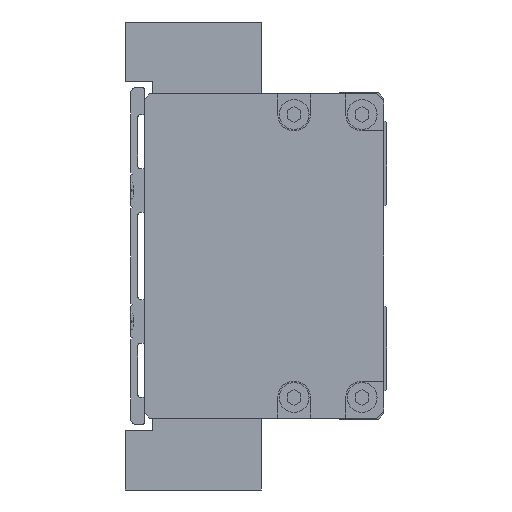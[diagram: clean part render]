
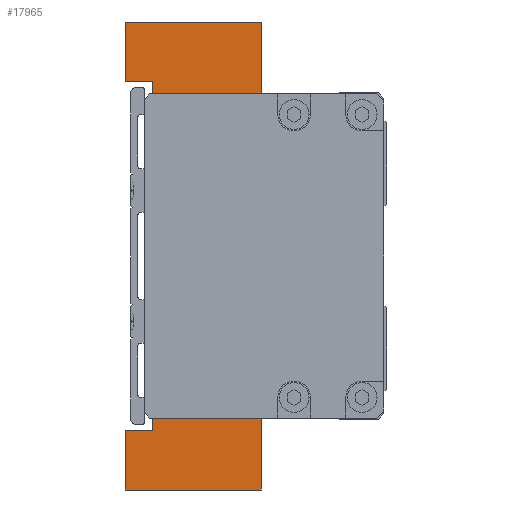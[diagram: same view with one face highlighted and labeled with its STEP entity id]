
A CAD part, left-side view. The second image highlights one B-rep face of the part: STEP entity #17965.
In plain terms, the highlighted planar face has unit normal (-1, 0, 0).
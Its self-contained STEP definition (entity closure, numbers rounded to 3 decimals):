
#34 = EDGE_CURVE ( 'NONE', #24284, #7421, #2724, .T. ) ;
#112 = VERTEX_POINT ( 'NONE', #23801 ) ;
#152 = LINE ( 'NONE', #4318, #15777 ) ;
#410 = EDGE_CURVE ( 'NONE', #17192, #18228, #17479, .T. ) ;
#828 = DIRECTION ( 'NONE',  ( 1., 0., 0. ) ) ;
#929 = VERTEX_POINT ( 'NONE', #11567 ) ;
#954 = CARTESIAN_POINT ( 'NONE',  ( -77., 10., 21. ) ) ;
#1280 = CARTESIAN_POINT ( 'NONE',  ( -77., 0., -28. ) ) ;
#1464 = ORIENTED_EDGE ( 'NONE', *, *, #5076, .T. ) ;
#1552 = EDGE_CURVE ( 'NONE', #21914, #4806, #19814, .T. ) ;
#1909 = CARTESIAN_POINT ( 'NONE',  ( -77., 0., 28. ) ) ;
#1972 = VECTOR ( 'NONE', #10484, 1000. ) ;
#2132 = VECTOR ( 'NONE', #22029, 1000. ) ;
#2217 = CARTESIAN_POINT ( 'NONE',  ( -77., 20., 32. ) ) ;
#2281 = DIRECTION ( 'NONE',  ( 0., -1., 0. ) ) ;
#2703 = VECTOR ( 'NONE', #17325, 1000. ) ;
#2724 = LINE ( 'NONE', #4567, #2132 ) ;
#2885 = DIRECTION ( 'NONE',  ( 0., 0., 1. ) ) ;
#2898 = LINE ( 'NONE', #11600, #17627 ) ;
#3050 = ORIENTED_EDGE ( 'NONE', *, *, #15472, .F. ) ;
#3056 = EDGE_CURVE ( 'NONE', #13016, #21914, #17035, .T. ) ;
#3325 = CARTESIAN_POINT ( 'NONE',  ( -77., 9., -21. ) ) ;
#3804 = CARTESIAN_POINT ( 'NONE',  ( -77., 25., -32. ) ) ;
#3842 = ORIENTED_EDGE ( 'NONE', *, *, #10194, .F. ) ;
#4139 = DIRECTION ( 'NONE',  ( 0., -1., 0. ) ) ;
#4318 = CARTESIAN_POINT ( 'NONE',  ( -77., 20., -32. ) ) ;
#4388 = LINE ( 'NONE', #18673, #16111 ) ;
#4407 = VECTOR ( 'NONE', #18866, 1000. ) ;
#4410 = EDGE_CURVE ( 'NONE', #4806, #16626, #22387, .T. ) ;
#4567 = CARTESIAN_POINT ( 'NONE',  ( -77., 20., 32. ) ) ;
#4806 = VERTEX_POINT ( 'NONE', #8911 ) ;
#4879 = ORIENTED_EDGE ( 'NONE', *, *, #5438, .F. ) ;
#4962 = LINE ( 'NONE', #17343, #19703 ) ;
#5076 = EDGE_CURVE ( 'NONE', #18228, #16626, #2898, .T. ) ;
#5420 = CARTESIAN_POINT ( 'NONE',  ( -77., 25., 32. ) ) ;
#5438 = EDGE_CURVE ( 'NONE', #14537, #24284, #152, .T. ) ;
#5559 = CARTESIAN_POINT ( 'NONE',  ( -77., 5., 28. ) ) ;
#5565 = DIRECTION ( 'NONE',  ( 0., 0., -1. ) ) ;
#6084 = CARTESIAN_POINT ( 'NONE',  ( -77., 5., -21. ) ) ;
#6308 = LINE ( 'NONE', #23693, #22523 ) ;
#6478 = CARTESIAN_POINT ( 'NONE',  ( -77., 10., 21. ) ) ;
#7079 = LINE ( 'NONE', #10228, #1972 ) ;
#7275 = CARTESIAN_POINT ( 'NONE',  ( -77., 10., -21. ) ) ;
#7368 = DIRECTION ( 'NONE',  ( 0., -1., 0. ) ) ;
#7421 = VERTEX_POINT ( 'NONE', #14105 ) ;
#7593 = CARTESIAN_POINT ( 'NONE',  ( -77., 0., 43. ) ) ;
#7739 = DIRECTION ( 'NONE',  ( 0., 0., -1. ) ) ;
#7894 = VERTEX_POINT ( 'NONE', #6084 ) ;
#7916 = VERTEX_POINT ( 'NONE', #13683 ) ;
#8015 = ORIENTED_EDGE ( 'NONE', *, *, #21623, .F. ) ;
#8171 = VECTOR ( 'NONE', #2281, 1000. ) ;
#8383 = VECTOR ( 'NONE', #20890, 1000. ) ;
#8518 = CARTESIAN_POINT ( 'NONE',  ( -77., 9., -21. ) ) ;
#8539 = VECTOR ( 'NONE', #19859, 1000. ) ;
#8911 = CARTESIAN_POINT ( 'NONE',  ( -77., 5., 28. ) ) ;
#9559 = CARTESIAN_POINT ( 'NONE',  ( -77., 9., 21. ) ) ;
#9822 = ORIENTED_EDGE ( 'NONE', *, *, #15054, .F. ) ;
#9983 = EDGE_CURVE ( 'NONE', #17192, #13984, #24202, .T. ) ;
#10156 = EDGE_CURVE ( 'NONE', #7916, #14437, #4962, .T. ) ;
#10194 = EDGE_CURVE ( 'NONE', #13179, #14537, #17303, .T. ) ;
#10228 = CARTESIAN_POINT ( 'NONE',  ( -77., 0., -28. ) ) ;
#10414 = CARTESIAN_POINT ( 'NONE',  ( -77., 10., 0. ) ) ;
#10484 = DIRECTION ( 'NONE',  ( 0., 0., -1. ) ) ;
#10869 = DIRECTION ( 'NONE',  ( 0., 0., -1. ) ) ;
#11080 = ORIENTED_EDGE ( 'NONE', *, *, #10156, .F. ) ;
#11287 = ORIENTED_EDGE ( 'NONE', *, *, #15058, .F. ) ;
#11567 = CARTESIAN_POINT ( 'NONE',  ( -77., 25., -43. ) ) ;
#11600 = CARTESIAN_POINT ( 'NONE',  ( -77., 9., 21. ) ) ;
#12304 = DIRECTION ( 'NONE',  ( 0., 0., 1. ) ) ;
#12520 = ORIENTED_EDGE ( 'NONE', *, *, #23951, .F. ) ;
#12653 = DIRECTION ( 'NONE',  ( 0., 0., -1. ) ) ;
#13016 = VERTEX_POINT ( 'NONE', #13301 ) ;
#13023 = LINE ( 'NONE', #23746, #8171 ) ;
#13032 = EDGE_LOOP ( 'NONE', ( #22647, #1464, #15349, #15060, #14812, #13763, #9822, #22308, #4879, #3842, #8015, #12520, #14174, #11080, #3050, #11287, #21082, #22976 ) ) ;
#13179 = VERTEX_POINT ( 'NONE', #14294 ) ;
#13301 = CARTESIAN_POINT ( 'NONE',  ( -77., 0., 43. ) ) ;
#13683 = CARTESIAN_POINT ( 'NONE',  ( -77., 5., -28. ) ) ;
#13763 = ORIENTED_EDGE ( 'NONE', *, *, #22137, .F. ) ;
#13984 = VERTEX_POINT ( 'NONE', #7275 ) ;
#14075 = CARTESIAN_POINT ( 'NONE',  ( -77., 0., -43. ) ) ;
#14105 = CARTESIAN_POINT ( 'NONE',  ( -77., 25., 32. ) ) ;
#14174 = ORIENTED_EDGE ( 'NONE', *, *, #23466, .F. ) ;
#14282 = VECTOR ( 'NONE', #12653, 1000. ) ;
#14288 = DIRECTION ( 'NONE',  ( 0., 0., -1. ) ) ;
#14294 = CARTESIAN_POINT ( 'NONE',  ( -77., 25., -32. ) ) ;
#14437 = VERTEX_POINT ( 'NONE', #1280 ) ;
#14537 = VERTEX_POINT ( 'NONE', #18912 ) ;
#14769 = VECTOR ( 'NONE', #4139, 1000. ) ;
#14812 = ORIENTED_EDGE ( 'NONE', *, *, #3056, .F. ) ;
#14921 = VECTOR ( 'NONE', #5565, 1000. ) ;
#15054 = EDGE_CURVE ( 'NONE', #7421, #112, #22138, .T. ) ;
#15058 = EDGE_CURVE ( 'NONE', #15315, #7894, #20064, .T. ) ;
#15060 = ORIENTED_EDGE ( 'NONE', *, *, #1552, .F. ) ;
#15315 = VERTEX_POINT ( 'NONE', #8518 ) ;
#15349 = ORIENTED_EDGE ( 'NONE', *, *, #4410, .F. ) ;
#15472 = EDGE_CURVE ( 'NONE', #7894, #7916, #4388, .T. ) ;
#15777 = VECTOR ( 'NONE', #12304, 1000. ) ;
#16111 = VECTOR ( 'NONE', #10869, 1000. ) ;
#16626 = VERTEX_POINT ( 'NONE', #18211 ) ;
#16689 = VECTOR ( 'NONE', #19105, 1000. ) ;
#16718 = FACE_OUTER_BOUND ( 'NONE', #13032, .T. ) ;
#17035 = LINE ( 'NONE', #7593, #14921 ) ;
#17192 = VERTEX_POINT ( 'NONE', #6478 ) ;
#17303 = LINE ( 'NONE', #3804, #16689 ) ;
#17325 = DIRECTION ( 'NONE',  ( 0., 1., 0. ) ) ;
#17343 = CARTESIAN_POINT ( 'NONE',  ( -77., 5., -28. ) ) ;
#17479 = LINE ( 'NONE', #24902, #14769 ) ;
#17627 = VECTOR ( 'NONE', #23053, 1000. ) ;
#17871 = LINE ( 'NONE', #14075, #8539 ) ;
#17965 = ADVANCED_FACE ( 'NONE', ( #16718 ), #23755, .F. ) ;
#17989 = CARTESIAN_POINT ( 'NONE',  ( -77., 0., -43. ) ) ;
#18211 = CARTESIAN_POINT ( 'NONE',  ( -77., 5., 21. ) ) ;
#18228 = VERTEX_POINT ( 'NONE', #9559 ) ;
#18513 = VECTOR ( 'NONE', #7739, 1000. ) ;
#18673 = CARTESIAN_POINT ( 'NONE',  ( -77., 5., -21. ) ) ;
#18866 = DIRECTION ( 'NONE',  ( 0., 0., 1. ) ) ;
#18912 = CARTESIAN_POINT ( 'NONE',  ( -77., 20., -32. ) ) ;
#19098 = VERTEX_POINT ( 'NONE', #17989 ) ;
#19105 = DIRECTION ( 'NONE',  ( 0., -1., 0. ) ) ;
#19155 = VECTOR ( 'NONE', #7368, 1000. ) ;
#19703 = VECTOR ( 'NONE', #20868, 1000. ) ;
#19814 = LINE ( 'NONE', #1909, #8383 ) ;
#19859 = DIRECTION ( 'NONE',  ( 0., 1., 0. ) ) ;
#20064 = LINE ( 'NONE', #3325, #19155 ) ;
#20135 = LINE ( 'NONE', #21318, #2703 ) ;
#20868 = DIRECTION ( 'NONE',  ( 0., -1., 0. ) ) ;
#20890 = DIRECTION ( 'NONE',  ( 0., 1., 0. ) ) ;
#21082 = ORIENTED_EDGE ( 'NONE', *, *, #22031, .T. ) ;
#21318 = CARTESIAN_POINT ( 'NONE',  ( -77., 9., -21. ) ) ;
#21623 = EDGE_CURVE ( 'NONE', #929, #13179, #6308, .T. ) ;
#21914 = VERTEX_POINT ( 'NONE', #22822 ) ;
#22029 = DIRECTION ( 'NONE',  ( 0., 1., 0. ) ) ;
#22031 = EDGE_CURVE ( 'NONE', #15315, #13984, #20135, .T. ) ;
#22137 = EDGE_CURVE ( 'NONE', #112, #13016, #13023, .T. ) ;
#22138 = LINE ( 'NONE', #5420, #4407 ) ;
#22308 = ORIENTED_EDGE ( 'NONE', *, *, #34, .F. ) ;
#22387 = LINE ( 'NONE', #5559, #18513 ) ;
#22523 = VECTOR ( 'NONE', #2885, 1000. ) ;
#22647 = ORIENTED_EDGE ( 'NONE', *, *, #410, .T. ) ;
#22822 = CARTESIAN_POINT ( 'NONE',  ( -77., 0., 28. ) ) ;
#22976 = ORIENTED_EDGE ( 'NONE', *, *, #9983, .F. ) ;
#23053 = DIRECTION ( 'NONE',  ( 0., -1., 0. ) ) ;
#23381 = AXIS2_PLACEMENT_3D ( 'NONE', #10414, #828, #14288 ) ;
#23466 = EDGE_CURVE ( 'NONE', #14437, #19098, #7079, .T. ) ;
#23693 = CARTESIAN_POINT ( 'NONE',  ( -77., 25., -43. ) ) ;
#23746 = CARTESIAN_POINT ( 'NONE',  ( -77., 25., 43. ) ) ;
#23755 = PLANE ( 'NONE',  #23381 ) ;
#23801 = CARTESIAN_POINT ( 'NONE',  ( -77., 25., 43. ) ) ;
#23951 = EDGE_CURVE ( 'NONE', #19098, #929, #17871, .T. ) ;
#24202 = LINE ( 'NONE', #954, #14282 ) ;
#24284 = VERTEX_POINT ( 'NONE', #2217 ) ;
#24902 = CARTESIAN_POINT ( 'NONE',  ( -77., 10., 21. ) ) ;
